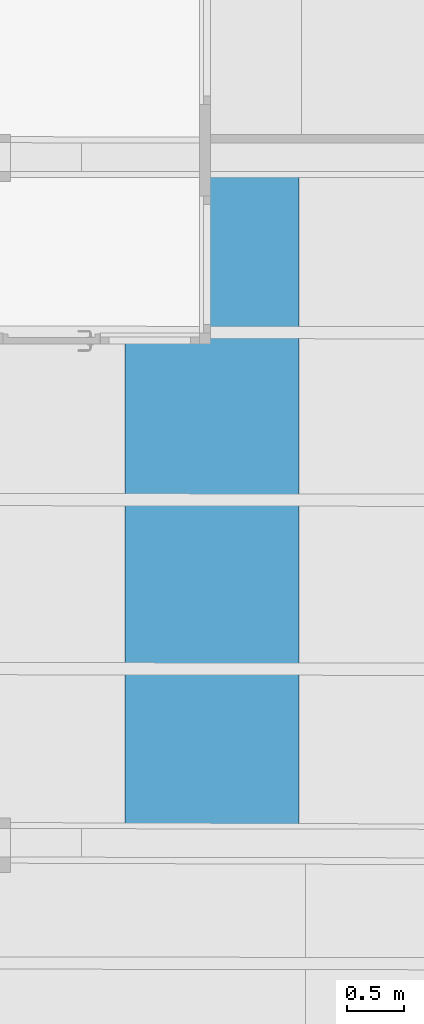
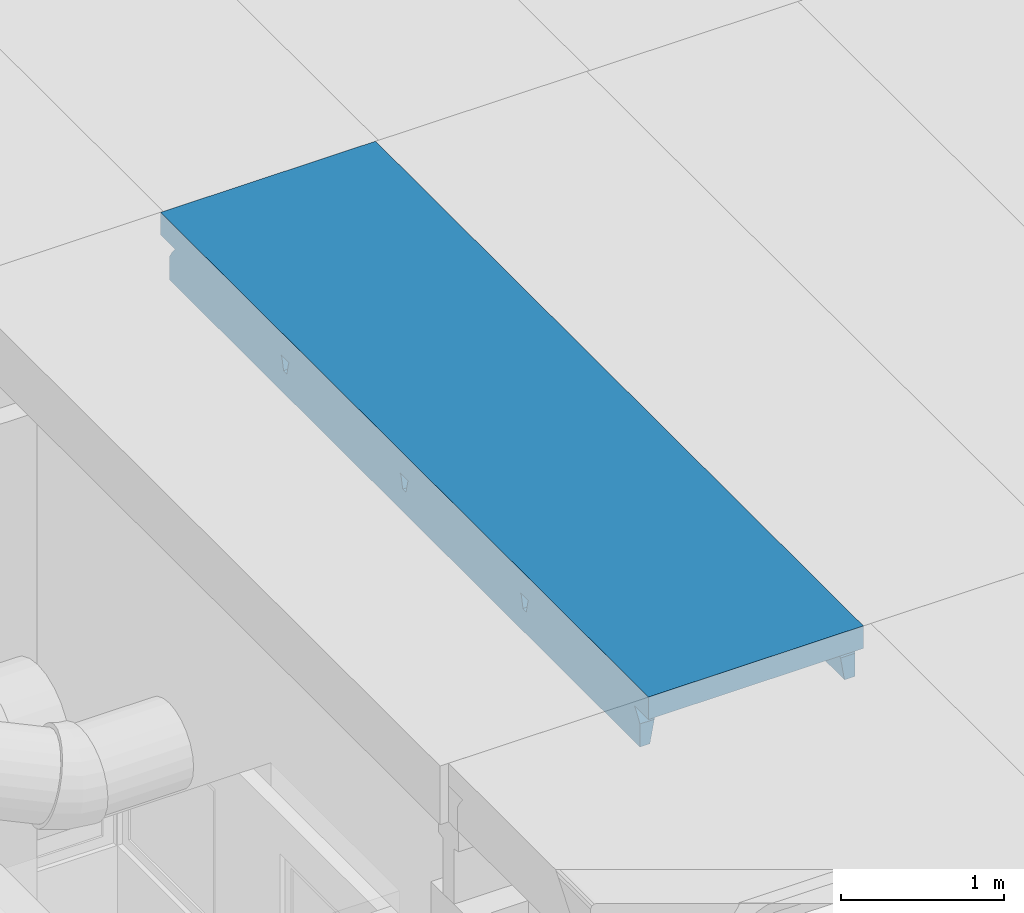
# One storey, part 30 of 301: 1 beam.
"""IFC2X3 building model written with IfcOpenShell, lengths in millimetres."""

from ifc_helpers import new_model, entity, si_unit, converted_unit, derived_unit, money_unit, direction, frame, origin_with_axes, place, context, subcontext, project, spatial, faceted_brep, material, type_object, element, save


model = new_model("IFC2X3")

# Units and contexts
model_context = context("Model", 3, precision=0.01, world=origin_with_axes(), true_north=direction((0.0, 1.0)))
body_context = subcontext(model_context, "Body", "Model", "MODEL_VIEW")
ifc_project = project(units=[si_unit("LENGTHUNIT", "METRE", prefix="MILLI"), si_unit("AREAUNIT", "SQUARE_METRE"), si_unit("VOLUMEUNIT", "CUBIC_METRE"), converted_unit("PLANEANGLEUNIT", "DEGREE", entity("IfcPlaneAngleMeasure", 0.0174532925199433), si_unit("PLANEANGLEUNIT", "RADIAN"), dimensions=[0, 0, 0, 0, 0, 0, 0]), money_unit("EUR"), converted_unit("TIMEUNIT", "Year", entity("IfcTimeMeasure", 31557600.0), si_unit("TIMEUNIT", "SECOND"), dimensions=[0, 0, 1, 0, 0, 0, 0]), si_unit("MASSUNIT", "GRAM", prefix="KILO"), si_unit("THERMODYNAMICTEMPERATUREUNIT", "DEGREE_CELSIUS"), si_unit("LUMINOUSINTENSITYUNIT", "LUMEN"), si_unit("ENERGYUNIT", "JOULE", prefix="MEGA"), derived_unit("THERMALCONDUCTANCEUNIT", [(si_unit("POWERUNIT", "WATT"), 1), (si_unit("LENGTHUNIT", "METRE"), -1), (si_unit("THERMODYNAMICTEMPERATUREUNIT", "KELVIN"), -1)]), derived_unit("SPECIFICHEATCAPACITYUNIT", [(si_unit("ENERGYUNIT", "JOULE"), 1), (si_unit("MASSUNIT", "GRAM", prefix="KILO"), -1), (si_unit("THERMODYNAMICTEMPERATUREUNIT", "KELVIN"), -1)]), derived_unit("MASSDENSITYUNIT", [(si_unit("MASSUNIT", "GRAM", prefix="KILO"), 1), (si_unit("VOLUMEUNIT", "CUBIC_METRE"), -1)])], contexts=[model_context])

# Site, building, storey
site_placement = place(None, frame((0.0, 0.0, 8650.0), z_axis=(0.0, 0.0, 1.0), x_axis=(1.0, 0.0, 0.0)))
site = spatial("IfcSite", under=ifc_project, at=site_placement, Name="43301:001:0844", CompositionType="ELEMENT")
building_placement = place(site_placement, origin_with_axes())
building = spatial("IfcBuilding", under=site, at=building_placement, Name="Kuressaare Ametikooli tuulikute mehaanikute õppekorpus", CompositionType="ELEMENT")
storey_placement = place(building_placement, origin_with_axes())
storey = spatial("IfcBuildingStorey", under=building, at=storey_placement, Name="1.korrus", CompositionType="ELEMENT", Elevation=0.0)

# Beam
ifc_material = material(Name="GENEERILINE - KONSTRUKTRIOON")
beam_type = type_object("IfcBeamType", Name="Precast Double Tee 2 1527 x 440", PredefinedType="NOTDEFINED")
beam_placement = place(storey_placement, frame((90442.31710030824, 50088.56674832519, 7100.0), z_axis=(0.0, 0.0, 1.0), x_axis=(-1.0, 0.0, 0.0)))
element("IfcBeam", 1, at=beam_placement, inside=storey, type_object=beam_type, material=ifc_material, context=body_context, shape_type="Brep", body=[
    faceted_brep([(763.5606534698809, 0.0, 0.0), (763.5606534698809, 6003.414462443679, 0.0), (-763.5606534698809, 6003.414462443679, 0.0), (-763.5606534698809, 0.0, 0.0), (763.5606534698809, 5829.211826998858, -168.9999999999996), (763.5606534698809, 6003.414455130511, -168.9999999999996), (763.5606534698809, 0.0, -169.8234995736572), (763.5606534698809, 177.2482279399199, -169.8234995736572), (763.5606534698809, 166.2856796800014, -181.3563575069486), (763.5606534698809, 134.6132016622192, -222.3718083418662), (763.5606534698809, 109.0212109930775, -267.4324680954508), (763.5606534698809, 109.0206883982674, -440.0001340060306), (763.5606534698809, 5897.439758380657, -440.0001340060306), (763.5606534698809, 5897.439233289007, -266.6089685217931), (763.5606534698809, 5871.847096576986, -221.5483087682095), (763.5606534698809, 5840.174437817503, -180.5328579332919), (763.5606534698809, 1579.048164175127, -175.3978342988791), (763.5606534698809, 1574.473544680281, -184.1936973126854), (763.5606534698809, 1553.733559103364, -271.7709778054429), (763.5606534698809, 1513.733505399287, -271.7709778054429), (763.5606534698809, 1492.992558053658, -184.1935020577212), (763.5606534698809, 1488.417918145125, -175.3977593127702), (763.5606534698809, 1480.219127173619, -169.8234995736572), (763.5606534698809, 1587.247021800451, -169.8234995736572), (763.5606534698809, 3040.314245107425, -184.1936973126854), (763.5606534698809, 3019.574259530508, -271.7709778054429), (763.5606534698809, 2979.574205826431, -271.7709778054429), (763.5606534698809, 2958.833258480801, -184.1935020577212), (763.5606534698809, 2954.258618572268, -175.3977593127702), (763.5606534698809, 2946.059827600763, -169.8234995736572), (763.5606534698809, 3053.087722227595, -169.8234995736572), (763.5606534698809, 3044.888864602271, -175.3978342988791), (763.5606534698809, 4499.666559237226, -271.7709778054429), (763.5606534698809, 4459.666505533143, -271.7709778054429), (763.5606534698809, 4438.92555818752, -184.1935020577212), (763.5606534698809, 4434.350918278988, -175.3977593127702), (763.5606534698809, 4426.152127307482, -169.8234995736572), (763.5606534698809, 4533.180021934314, -169.8234995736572), (763.5606534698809, 4524.98116430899, -175.3978342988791), (763.5606534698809, 4520.406544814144, -184.1936973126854), (-763.5606534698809, 6003.414462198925, -168.9999999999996), (-763.5606534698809, 5834.388554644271, -168.9999999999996), (-763.5606534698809, 5845.351165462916, -180.5328579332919), (-763.5606534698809, 5877.023824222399, -221.5483087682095), (-763.5606534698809, 5902.615960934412, -266.6089685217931), (-763.5606534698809, 5902.61648602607, -440.0001340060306), (-763.5606534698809, 109.4470467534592, -440.0001340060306), (-763.5606534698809, 109.4475693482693, -267.4324680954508), (-763.5606534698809, 135.039560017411, -222.3718083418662), (-763.5606534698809, 166.7120380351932, -181.3563575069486), (-763.5606534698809, 177.6745862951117, -169.8234995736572), (-763.5606534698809, 0.0, -169.8234995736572), (-763.5606534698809, 1495.494990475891, -184.1935020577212), (-763.5606534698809, 1516.235937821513, -271.7709778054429), (-763.5606534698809, 1556.235991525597, -271.7709778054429), (-763.5606534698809, 1576.975977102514, -184.1936973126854), (-763.5606534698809, 1581.55059659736, -175.3978342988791), (-763.5606534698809, 1589.749454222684, -169.8234995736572), (-763.5606534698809, 1482.721559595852, -169.8234995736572), (-763.5606534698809, 1490.920350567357, -175.3977593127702), (-763.5606534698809, 2982.076638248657, -271.7709778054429), (-763.5606534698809, 3022.07669195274, -271.7709778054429), (-763.5606534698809, 3042.816677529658, -184.1936973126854), (-763.5606534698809, 3047.391297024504, -175.3978342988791), (-763.5606534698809, 3055.590154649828, -169.8234995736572), (-763.5606534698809, 2948.562260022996, -169.8234995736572), (-763.5606534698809, 2956.761050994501, -175.3977593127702), (-763.5606534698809, 2961.335690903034, -184.1935020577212), (-763.5606534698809, 4502.16899165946, -271.7709778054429), (-763.5606534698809, 4522.908977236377, -184.1936973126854), (-763.5606534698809, 4527.483596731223, -175.3978342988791), (-763.5606534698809, 4535.682454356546, -169.8234995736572), (-763.5606534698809, 4428.654559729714, -169.8234995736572), (-763.5606534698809, 4436.85335070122, -175.3977593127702), (-763.5606534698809, 4441.427990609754, -184.1935020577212), (-763.5606534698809, 4462.168937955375, -271.7709778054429), (597.3692682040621, 0.0, -169.8234995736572), (600.4311136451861, 0.0, -169.7351493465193), (600.8844446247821, 0.0, -169.8234995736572), (-594.8169498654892, 0.0, -169.8234995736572), (600.8844446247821, 177.2936456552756, -169.8234995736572), (619.5598957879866, 173.8287355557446, -173.4631810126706), (631.5988047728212, 166.3225222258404, -181.3563575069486), (635.8579307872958, 164.1649807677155, -184.148806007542), (644.7992800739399, 154.9555616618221, -196.0716523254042), (649.7230638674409, 144.092138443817, -210.1378651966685), (651.9888665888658, 134.6443514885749, -222.3718083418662), (660.3343823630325, 109.0500308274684, -267.4324680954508), (692.2949924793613, 109.0405851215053, -440.0001340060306), (692.2949924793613, 5897.681339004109, -440.0001340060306), (660.1818650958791, 5897.789672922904, -266.6089685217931), (651.8363493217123, 5872.225826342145, -221.5483087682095), (649.7230638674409, 5863.421698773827, -210.1378651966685), (644.7992800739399, 5852.576279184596, -196.0716523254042), (635.8579307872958, 5843.399613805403, -184.148806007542), (630.3427785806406, 5840.626027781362, -180.5328579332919), (597.3692682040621, 5830.557973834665, -169.8234995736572), (-594.8169498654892, 5834.59931837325, -169.8234995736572), (-609.6555344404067, 5836.462628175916, -171.7308167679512), (-623.5131529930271, 5841.868898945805, -177.3688890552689), (-627.7188864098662, 5844.890680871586, -180.5328579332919), (619.5598957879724, 5833.942466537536, -173.4631810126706), (600.4311136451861, 5830.463612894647, -169.7351493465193), (635.8579307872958, 1574.706153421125, -184.148806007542), (635.8915963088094, 1574.682750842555, -184.1936973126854), (622.5106868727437, 1579.279297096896, -175.3978342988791), (649.7230638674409, 1568.51600748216, -210.1378651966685), (661.1379014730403, 1553.901395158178, -271.7709778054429), (644.7992800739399, 1571.855225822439, -196.0716523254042), (661.1379014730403, 1513.901341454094, -271.7709778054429), (649.7230638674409, 1499.323494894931, -210.1378651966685), (644.7992800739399, 1496.000266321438, -196.0716523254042), (635.8914498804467, 1493.201764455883, -184.1935020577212), (622.510572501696, 1488.649051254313, -175.3977593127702), (635.8579307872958, 1493.178573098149, -184.148806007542), (600.8844446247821, 1480.485698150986, -169.8234995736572), (619.5598957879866, 1485.808449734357, -173.4631810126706), (600.8844446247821, 1587.513592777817, -169.8234995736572), (619.5598957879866, 1582.129664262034, -173.4631810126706), (661.1379014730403, 3019.742095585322, -271.7709778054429), (635.8915963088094, 3040.523451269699, -184.1936973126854), (644.7992800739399, 3037.695926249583, -196.0716523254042), (649.7230638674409, 3034.35670790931, -210.1378651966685), (661.1379014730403, 2979.742041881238, -271.7709778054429), (649.7230638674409, 2965.164195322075, -210.1378651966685), (644.7992800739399, 2961.840966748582, -196.0716523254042), (635.8914498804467, 2959.042464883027, -184.1935020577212), (635.8579307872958, 2959.0192735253, -184.148806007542), (622.510572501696, 2954.489751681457, -175.3977593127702), (619.5598957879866, 2951.649150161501, -173.4631810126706), (600.8844446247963, 2946.32639857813, -169.8234995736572), (600.8844446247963, 3053.354293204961, -169.8234995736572), (622.5106868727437, 3045.11999752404, -175.3978342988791), (619.5598957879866, 3047.970364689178, -173.4631810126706), (635.8579307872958, 3040.546853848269, -184.148806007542), (661.1379014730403, 4499.834395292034, -271.7709778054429), (661.1379014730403, 4459.83434158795, -271.7709778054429), (649.7230638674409, 4445.256495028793, -210.1378651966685), (644.7992800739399, 4441.933266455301, -196.0716523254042), (635.8914498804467, 4439.134764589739, -184.1935020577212), (635.8579307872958, 4439.111573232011, -184.148806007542), (622.510572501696, 4434.582051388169, -175.3977593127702), (619.5598957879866, 4431.741449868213, -173.4631810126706), (600.8844446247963, 4426.418698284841, -169.8234995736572), (600.8844446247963, 4533.446592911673, -169.8234995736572), (619.5598957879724, 4528.062664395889, -173.4631810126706), (622.5106868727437, 4525.212297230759, -175.3978342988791), (635.8579307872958, 4520.639153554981, -184.148806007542), (635.8915963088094, 4520.615750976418, -184.1936973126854), (644.7992800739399, 4517.788225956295, -196.0716523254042), (649.7230638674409, 4514.449007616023, -210.1378651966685), (-635.4684781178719, 5849.418959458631, -186.3628677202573), (-646.4799073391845, 5861.155318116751, -201.5128762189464), (-651.8762025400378, 5875.023035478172, -219.4476003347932), (-652.2126966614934, 5876.646370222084, -221.5483087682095), (-659.4305698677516, 5902.26297451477, -266.6089685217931), (-687.2045850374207, 5902.357649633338, -440.0001340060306), (-687.2045850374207, 109.4257288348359, -440.0001340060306), (-659.5624790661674, 109.4185340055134, -267.4324680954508), (-652.344605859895, 135.0085095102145, -222.3718083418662), (-651.8762025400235, 137.2664768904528, -219.4476003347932), (-646.4799073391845, 151.114315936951, -201.5128762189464), (-635.4684781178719, 162.8102063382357, -186.3628677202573), (-628.81353045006, 166.6744178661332, -181.3563575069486), (-623.5131529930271, 170.4632227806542, -177.3688890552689), (-609.6555344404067, 175.818618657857, -171.7308167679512), (-594.8169498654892, 177.6274745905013, -169.8234995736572), (-635.4684781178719, 1495.798861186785, -186.3628677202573), (-646.4799073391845, 1499.404877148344, -201.5128762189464), (-651.8762025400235, 1503.661195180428, -219.4476003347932), (-660.2574270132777, 1516.066658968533, -271.7709778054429), (-632.5848297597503, 1495.280365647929, -184.1935020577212), (-660.2574270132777, 1556.066712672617, -271.7709778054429), (-651.8762025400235, 1568.444161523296, -219.4476003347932), (-646.4799073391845, 1572.68260668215, -201.5128762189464), (-635.4684781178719, 1576.252376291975, -186.3628677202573), (-632.5850893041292, 1576.761352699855, -184.1936973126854), (-623.5131529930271, 1580.29598519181, -177.3688890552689), (-618.6685671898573, 1581.313167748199, -175.3978342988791), (-609.6555344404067, 1586.691930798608, -171.7308167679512), (-594.8169498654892, 1589.47294068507, -169.8234995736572), (-594.8169498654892, 1482.445046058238, -169.8234995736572), (-609.6555344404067, 1485.274701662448, -171.7308167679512), (-618.6683828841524, 1490.682921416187, -175.3977593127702), (-623.5131529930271, 1491.71603912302, -177.3688890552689), (-660.2574270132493, 2981.907359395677, -271.7709778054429), (-660.2574270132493, 3021.907413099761, -271.7709778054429), (-646.4799073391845, 3038.523307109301, -201.5128762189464), (-635.4684781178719, 3042.093076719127, -186.3628677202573), (-632.5850893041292, 3042.602053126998, -184.1936973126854), (-651.8762025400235, 3034.284861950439, -219.4476003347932), (-623.5131529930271, 3046.136685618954, -177.3688890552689), (-618.6685671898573, 3047.153868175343, -175.3978342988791), (-609.6555344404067, 3052.532631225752, -171.7308167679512), (-594.8169498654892, 3055.313641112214, -169.8234995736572), (-594.8169498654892, 2948.285746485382, -169.8234995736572), (-609.6555344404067, 2951.115402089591, -171.7308167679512), (-618.6683828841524, 2956.523621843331, -175.3977593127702), (-623.5131529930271, 2957.556739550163, -177.3688890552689), (-632.5848297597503, 2961.121066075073, -184.1935020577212), (-646.4799073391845, 2965.245577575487, -201.5128762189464), (-651.8762025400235, 2969.501895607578, -219.4476003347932), (-635.4684781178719, 2961.639561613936, -186.3628677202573), (-635.4684781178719, 4522.185376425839, -186.3628677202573), (-632.5850893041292, 4522.694352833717, -184.1936973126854), (-660.2574270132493, 4501.999712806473, -271.7709778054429), (-651.8762025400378, 4514.377161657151, -219.4476003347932), (-646.4799073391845, 4518.615606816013, -201.5128762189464), (-623.5131529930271, 4526.228985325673, -177.3688890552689), (-618.6685671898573, 4527.246167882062, -175.3978342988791), (-609.6555344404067, 4532.624930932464, -171.7308167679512), (-594.8169498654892, 4535.405940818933, -169.8234995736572), (-594.8169498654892, 4428.378046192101, -169.8234995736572), (-609.6555344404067, 4431.20770179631, -171.7308167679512), (-618.6683828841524, 4436.615921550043, -175.3977593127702), (-623.5131529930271, 4437.649039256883, -177.3688890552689), (-632.5848297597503, 4441.213365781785, -184.1935020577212), (-651.8762025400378, 4449.59419531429, -219.4476003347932), (-660.2574270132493, 4461.999659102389, -271.7709778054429), (-635.4684781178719, 4441.731861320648, -186.3628677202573), (-646.4799073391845, 4445.337877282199, -201.5128762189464)], [[[0, 1, 2, 3]], [[4, 5, 1, 0, 6, 7, 8, 9, 10, 11, 12, 13, 14, 15], [16, 17, 18, 19, 20, 21, 22, 23], [24, 25, 26, 27, 28, 29, 30, 31], [32, 33, 34, 35, 36, 37, 38, 39]], [[5, 40, 2, 1]], [[3, 2, 40, 41, 42, 43, 44, 45, 46, 47, 48, 49, 50, 51], [52, 53, 54, 55, 56, 57, 58, 59], [60, 61, 62, 63, 64, 65, 66, 67], [68, 69, 70, 71, 72, 73, 74, 75]], [[76, 77, 78, 6, 0, 3, 51, 79]], [[41, 40, 5, 4]], [[80, 7, 6, 78]], [[7, 80, 81, 82, 8]], [[83, 84, 85, 86, 9, 8, 82]], [[10, 9, 86, 87]], [[11, 10, 87, 88]], [[88, 89, 12, 11]], [[12, 89, 90, 13]], [[13, 90, 91, 14]], [[15, 14, 91, 92, 93, 94, 95]], [[96, 97, 98, 99, 100, 42, 41, 4, 15, 95, 101, 102]], [[103, 104, 17, 16, 105]], [[106, 107, 18, 17, 104, 108]], [[107, 109, 19, 18]], [[20, 19, 109, 110, 111, 112]], [[113, 21, 20, 112, 114]], [[115, 22, 21, 113, 116]], [[115, 117, 23, 22]], [[118, 105, 16, 23, 117]], [[119, 25, 24, 120, 121, 122]], [[123, 26, 25, 119]], [[26, 123, 124, 125, 126, 27]], [[28, 27, 126, 127, 128]], [[29, 28, 128, 129, 130]], [[131, 30, 29, 130]], [[132, 31, 30, 131, 133]], [[120, 24, 31, 132, 134]], [[33, 32, 135, 136]], [[136, 137, 138, 139, 34, 33]], [[34, 139, 140, 141, 35]], [[35, 141, 142, 143, 36]], [[37, 36, 143, 144]], [[38, 37, 144, 145, 146]], [[39, 38, 146, 147, 148]], [[32, 39, 148, 149, 150, 135]], [[100, 151, 152, 153, 154, 43, 42]], [[155, 44, 43, 154]], [[156, 45, 44, 155]], [[46, 45, 156, 157]], [[157, 158, 47, 46]], [[158, 159, 48, 47]], [[48, 159, 160, 161, 162, 163, 49]], [[50, 49, 163, 164, 165, 166]], [[50, 166, 79, 51]], [[167, 168, 169, 170, 53, 52, 171]], [[54, 53, 170, 172]], [[173, 174, 175, 176, 55, 54, 172]], [[55, 176, 177, 178, 56]], [[56, 178, 179, 180, 57]], [[58, 57, 180, 181]], [[58, 181, 182, 183, 59]], [[59, 183, 184, 171, 52]], [[60, 185, 186, 61]], [[187, 188, 189, 62, 61, 186, 190]], [[189, 191, 192, 63, 62]], [[192, 193, 194, 64, 63]], [[64, 194, 195, 65]], [[195, 196, 197, 66, 65]], [[197, 198, 199, 67, 66]], [[200, 201, 185, 60, 67, 199, 202]], [[203, 204, 69, 68, 205, 206, 207]], [[208, 209, 70, 69, 204]], [[210, 211, 71, 70, 209]], [[211, 212, 72, 71]], [[213, 214, 73, 72, 212]], [[215, 216, 74, 73, 214]], [[217, 218, 75, 74, 216, 219, 220]], [[218, 205, 68, 75]], [[76, 96, 102, 77]], [[102, 101, 145, 144, 143, 142, 133, 131, 130, 129, 118, 117, 115, 116, 81, 80, 78, 77]], [[195, 194, 212, 211, 97, 96, 76, 79, 166, 181, 180]], [[83, 82, 81, 116, 113, 114]], [[111, 84, 83, 114, 112]], [[111, 110, 85, 84]], [[137, 136, 135, 150, 92, 91, 90, 89, 88, 87, 86, 85, 110, 109, 107, 106, 124, 123, 119, 122]], [[93, 92, 150, 149]], [[93, 149, 148, 147, 94]], [[94, 147, 146, 145, 101, 95]], [[98, 97, 211, 210]], [[98, 210, 209, 208, 99]], [[99, 208, 204, 203, 151, 100]], [[104, 103, 127, 126, 125, 108]], [[105, 118, 129, 128, 127, 103]], [[124, 106, 108, 125]], [[134, 140, 139, 138, 121, 120]], [[122, 121, 138, 137]], [[133, 142, 141, 140, 134, 132]], [[152, 151, 203, 207]], [[153, 152, 207, 206]], [[154, 153, 206, 205, 218, 217, 190, 186, 185, 201, 173, 172, 170, 169, 160, 159, 158, 157, 156, 155]], [[169, 168, 161, 160]], [[168, 167, 162, 161]], [[164, 163, 162, 167, 171, 184]], [[182, 165, 164, 184, 183]], [[182, 181, 166, 165]], [[200, 174, 173, 201]], [[202, 175, 174, 200]], [[176, 175, 202, 199, 198, 177]], [[178, 177, 198, 197, 196, 179]], [[195, 180, 179, 196]], [[188, 187, 220, 219]], [[188, 219, 216, 215, 191, 189]], [[187, 190, 217, 220]], [[191, 215, 214, 213, 193, 192]], [[194, 193, 213, 212]]]),
])

save(model, "model.ifc")
